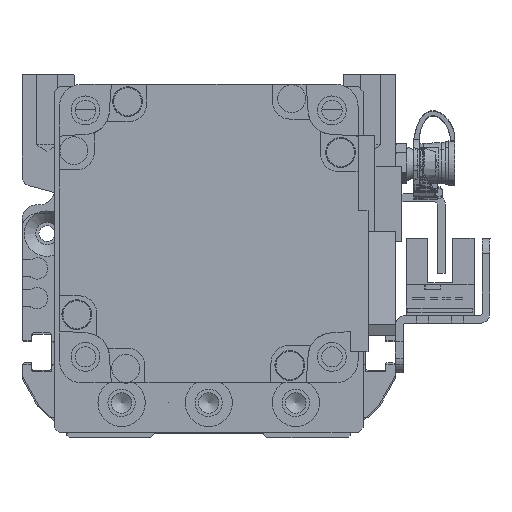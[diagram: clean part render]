
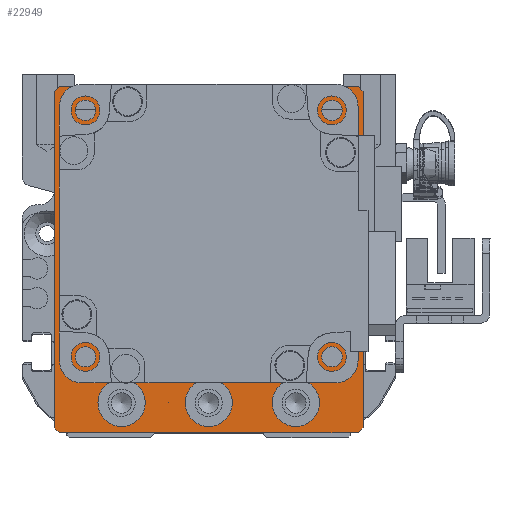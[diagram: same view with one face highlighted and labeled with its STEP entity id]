
A CAD part, left-side view. The second image highlights one B-rep face of the part: STEP entity #22949.
In plain terms, the highlighted planar face has unit normal (-1, 0, 0) as drawn and (0, 0, 1) by its records, which use the part's own axes.
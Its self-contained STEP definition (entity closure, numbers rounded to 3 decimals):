
#981=FACE_BOUND('',#4072,.T.);
#982=FACE_BOUND('',#4073,.T.);
#983=FACE_BOUND('',#4074,.T.);
#984=FACE_BOUND('',#4075,.T.);
#985=FACE_BOUND('',#4076,.T.);
#986=FACE_BOUND('',#4077,.T.);
#987=FACE_BOUND('',#4078,.T.);
#988=FACE_BOUND('',#4079,.T.);
#1520=PLANE('',#25541);
#2560=FACE_OUTER_BOUND('',#4071,.T.);
#4071=EDGE_LOOP('',(#19704,#19705,#19706,#19707,#19708,#19709,#19710,#19711));
#4072=EDGE_LOOP('',(#19712));
#4073=EDGE_LOOP('',(#19713));
#4074=EDGE_LOOP('',(#19714));
#4075=EDGE_LOOP('',(#19715));
#4076=EDGE_LOOP('',(#19716));
#4077=EDGE_LOOP('',(#19717));
#4078=EDGE_LOOP('',(#19718));
#4079=EDGE_LOOP('',(#19719));
#5969=LINE('',#38495,#7905);
#5972=LINE('',#38500,#7908);
#5974=LINE('',#38504,#7910);
#5976=LINE('',#38508,#7912);
#5978=LINE('',#38513,#7914);
#5980=LINE('',#38516,#7916);
#5981=LINE('',#38518,#7917);
#5982=LINE('',#38519,#7918);
#7905=VECTOR('',#31213,10.);
#7908=VECTOR('',#31218,10.);
#7910=VECTOR('',#31222,10.);
#7912=VECTOR('',#31226,10.);
#7914=VECTOR('',#31230,10.);
#7916=VECTOR('',#31234,10.);
#7917=VECTOR('',#31235,10.);
#7918=VECTOR('',#31236,10.);
#9269=CIRCLE('',#25542,25.);
#9270=CIRCLE('',#25543,2.067);
#9271=CIRCLE('',#25544,2.067);
#9272=CIRCLE('',#25545,2.067);
#9273=CIRCLE('',#25546,2.067);
#9274=CIRCLE('',#25547,4.75);
#9275=CIRCLE('',#25548,4.75);
#9276=CIRCLE('',#25549,4.75);
#11153=VERTEX_POINT('',#38492);
#11154=VERTEX_POINT('',#38494);
#11155=VERTEX_POINT('',#38498);
#11156=VERTEX_POINT('',#38502);
#11157=VERTEX_POINT('',#38506);
#11158=VERTEX_POINT('',#38510);
#11159=VERTEX_POINT('',#38512);
#11160=VERTEX_POINT('',#38517);
#11161=VERTEX_POINT('',#38520);
#11162=VERTEX_POINT('',#38522);
#11163=VERTEX_POINT('',#38524);
#11164=VERTEX_POINT('',#38526);
#11165=VERTEX_POINT('',#38528);
#11166=VERTEX_POINT('',#38530);
#11167=VERTEX_POINT('',#38532);
#11168=VERTEX_POINT('',#38534);
#14099=EDGE_CURVE('',#11153,#11154,#5969,.T.);
#14102=EDGE_CURVE('',#11153,#11155,#5972,.T.);
#14104=EDGE_CURVE('',#11156,#11155,#5974,.T.);
#14106=EDGE_CURVE('',#11156,#11157,#5976,.T.);
#14108=EDGE_CURVE('',#11158,#11159,#5978,.T.);
#14110=EDGE_CURVE('',#11158,#11154,#5980,.T.);
#14111=EDGE_CURVE('',#11160,#11157,#5981,.T.);
#14112=EDGE_CURVE('',#11160,#11159,#5982,.T.);
#14113=EDGE_CURVE('',#11161,#11161,#9269,.T.);
#14114=EDGE_CURVE('',#11162,#11162,#9270,.T.);
#14115=EDGE_CURVE('',#11163,#11163,#9271,.T.);
#14116=EDGE_CURVE('',#11164,#11164,#9272,.T.);
#14117=EDGE_CURVE('',#11165,#11165,#9273,.T.);
#14118=EDGE_CURVE('',#11166,#11166,#9274,.T.);
#14119=EDGE_CURVE('',#11167,#11167,#9275,.T.);
#14120=EDGE_CURVE('',#11168,#11168,#9276,.T.);
#19704=ORIENTED_EDGE('',*,*,#14108,.F.);
#19705=ORIENTED_EDGE('',*,*,#14110,.T.);
#19706=ORIENTED_EDGE('',*,*,#14099,.F.);
#19707=ORIENTED_EDGE('',*,*,#14102,.T.);
#19708=ORIENTED_EDGE('',*,*,#14104,.F.);
#19709=ORIENTED_EDGE('',*,*,#14106,.T.);
#19710=ORIENTED_EDGE('',*,*,#14111,.F.);
#19711=ORIENTED_EDGE('',*,*,#14112,.T.);
#19712=ORIENTED_EDGE('',*,*,#14113,.T.);
#19713=ORIENTED_EDGE('',*,*,#14114,.T.);
#19714=ORIENTED_EDGE('',*,*,#14115,.T.);
#19715=ORIENTED_EDGE('',*,*,#14116,.T.);
#19716=ORIENTED_EDGE('',*,*,#14117,.T.);
#19717=ORIENTED_EDGE('',*,*,#14118,.T.);
#19718=ORIENTED_EDGE('',*,*,#14119,.T.);
#19719=ORIENTED_EDGE('',*,*,#14120,.T.);
#22949=ADVANCED_FACE('',(#2560,#981,#982,#983,#984,#985,#986,#987,#988),
#1520,.T.);
#25541=AXIS2_PLACEMENT_3D('',#38515,#31232,#31233);
#25542=AXIS2_PLACEMENT_3D('',#38521,#31237,#31238);
#25543=AXIS2_PLACEMENT_3D('',#38523,#31239,#31240);
#25544=AXIS2_PLACEMENT_3D('',#38525,#31241,#31242);
#25545=AXIS2_PLACEMENT_3D('',#38527,#31243,#31244);
#25546=AXIS2_PLACEMENT_3D('',#38529,#31245,#31246);
#25547=AXIS2_PLACEMENT_3D('',#38531,#31247,#31248);
#25548=AXIS2_PLACEMENT_3D('',#38533,#31249,#31250);
#25549=AXIS2_PLACEMENT_3D('',#38535,#31251,#31252);
#31213=DIRECTION('',(-0.707,-0.707,0.));
#31218=DIRECTION('',(0.,1.,0.));
#31222=DIRECTION('',(0.707,-0.707,0.));
#31226=DIRECTION('',(-1.,0.,0.));
#31230=DIRECTION('',(-0.707,0.707,0.));
#31232=DIRECTION('center_axis',(0.,0.,1.));
#31233=DIRECTION('ref_axis',(1.,0.,0.));
#31234=DIRECTION('',(1.,0.,0.));
#31235=DIRECTION('',(0.707,0.707,0.));
#31236=DIRECTION('',(0.,-1.,0.));
#31237=DIRECTION('center_axis',(0.,0.,-1.));
#31238=DIRECTION('ref_axis',(1.,0.,0.));
#31239=DIRECTION('center_axis',(0.,0.,-1.));
#31240=DIRECTION('ref_axis',(1.,0.,0.));
#31241=DIRECTION('center_axis',(0.,0.,-1.));
#31242=DIRECTION('ref_axis',(1.,0.,0.));
#31243=DIRECTION('center_axis',(0.,0.,-1.));
#31244=DIRECTION('ref_axis',(1.,0.,0.));
#31245=DIRECTION('center_axis',(0.,0.,-1.));
#31246=DIRECTION('ref_axis',(1.,0.,0.));
#31247=DIRECTION('center_axis',(0.,0.,-1.));
#31248=DIRECTION('ref_axis',(1.,0.,0.));
#31249=DIRECTION('center_axis',(0.,0.,-1.));
#31250=DIRECTION('ref_axis',(1.,0.,0.));
#31251=DIRECTION('center_axis',(0.,0.,-1.));
#31252=DIRECTION('ref_axis',(1.,0.,0.));
#38492=CARTESIAN_POINT('',(31.,-33.75,59.));
#38494=CARTESIAN_POINT('',(30.,-34.75,59.));
#38495=CARTESIAN_POINT('',(31.438,-33.313,59.));
#38498=CARTESIAN_POINT('',(31.,33.75,59.));
#38500=CARTESIAN_POINT('',(31.,-34.75,59.));
#38502=CARTESIAN_POINT('',(30.,34.75,59.));
#38504=CARTESIAN_POINT('',(31.438,33.313,59.));
#38506=CARTESIAN_POINT('',(-30.,34.75,59.));
#38508=CARTESIAN_POINT('',(31.,34.75,59.));
#38510=CARTESIAN_POINT('',(-30.,-34.75,59.));
#38512=CARTESIAN_POINT('',(-31.,-33.75,59.));
#38513=CARTESIAN_POINT('',(-31.438,-33.313,59.));
#38515=CARTESIAN_POINT('Origin',(0.,0.,
59.));
#38516=CARTESIAN_POINT('',(-31.,-34.75,59.));
#38517=CARTESIAN_POINT('',(-31.,33.75,59.));
#38518=CARTESIAN_POINT('',(-31.438,33.313,59.));
#38519=CARTESIAN_POINT('',(-31.,34.75,59.));
#38520=CARTESIAN_POINT('',(-25.,5.25,59.));
#38521=CARTESIAN_POINT('Origin',(0.,5.25,59.));
#38522=CARTESIAN_POINT('',(22.682,-19.499,59.));
#38523=CARTESIAN_POINT('Origin',(24.749,-19.499,59.));
#38524=CARTESIAN_POINT('',(22.682,29.999,59.));
#38525=CARTESIAN_POINT('Origin',(24.749,29.999,59.));
#38526=CARTESIAN_POINT('',(-26.816,29.999,59.));
#38527=CARTESIAN_POINT('Origin',(-24.749,29.999,59.));
#38528=CARTESIAN_POINT('',(-26.816,-19.499,59.));
#38529=CARTESIAN_POINT('Origin',(-24.749,-19.499,59.));
#38530=CARTESIAN_POINT('',(12.75,-28.75,59.));
#38531=CARTESIAN_POINT('Origin',(17.5,-28.75,59.));
#38532=CARTESIAN_POINT('',(-4.75,-28.75,59.));
#38533=CARTESIAN_POINT('Origin',(0.,-28.75,59.));
#38534=CARTESIAN_POINT('',(-22.25,-28.75,59.));
#38535=CARTESIAN_POINT('Origin',(-17.5,-28.75,59.));
